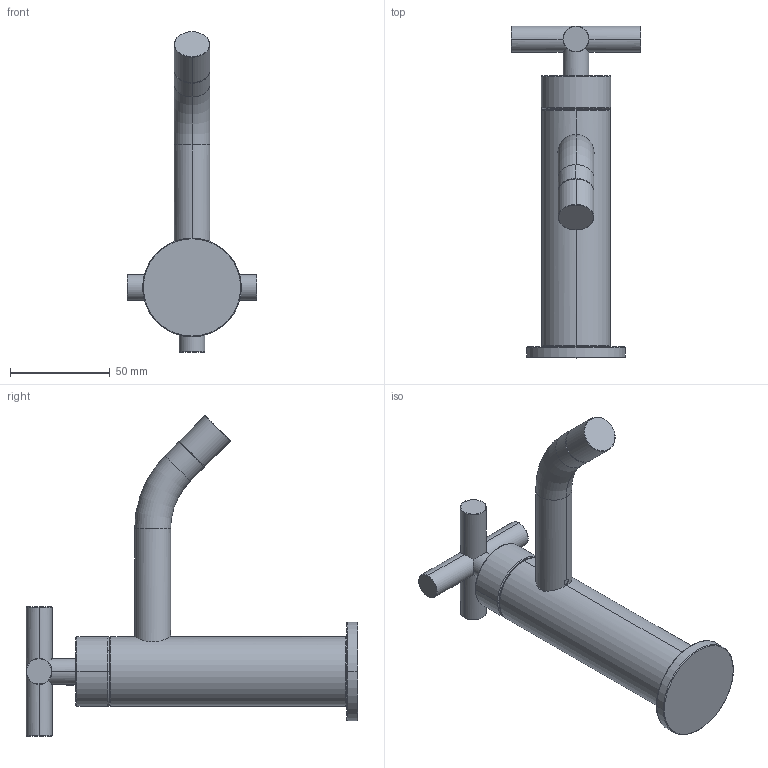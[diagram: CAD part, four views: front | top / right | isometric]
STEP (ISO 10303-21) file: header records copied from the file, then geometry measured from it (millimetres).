
FILE_DESCRIPTION((''),'2;1');
FILE_NAME('F5308_FILE_3D','2013-05-17T',('ivanv'),(''),'PRO/ENGINEER BY PARAMETRIC TECHNOLOGY CORPORATION, 2012130','PRO/ENGINEER BY PARAMETRIC TECHNOLOGY CORPORATION, 2012130','');
FILE_SCHEMA(('CONFIG_CONTROL_DESIGN'));
Length unit declared in the file: millimetre
Products named in the file (1): F5308_FILE_3D
Bounding box: 65 x 166.5 x 160.78 mm (x, y, z)
Volume: 186453.2 mm3; surface area: 31945.8 mm2
Topology: 1 solids, 1 shells, 76 faces, 157 edges, 89 vertices
Faces by surface type: cylinder 28, torus 22, plane 13, cone 13
Entity records: 3137 total; most frequent: CARTESIAN_POINT 1472, DIRECTION 377, ORIENTED_EDGE 314, AXIS2_PLACEMENT_3D 168, EDGE_CURVE 157, CIRCLE 91, VERTEX_POINT 89, EDGE_LOOP 82
